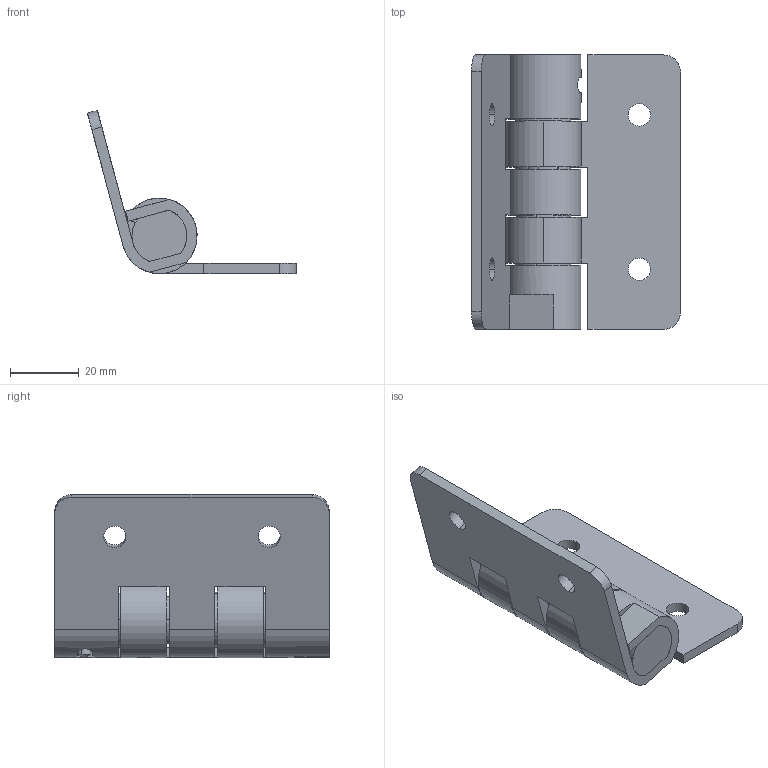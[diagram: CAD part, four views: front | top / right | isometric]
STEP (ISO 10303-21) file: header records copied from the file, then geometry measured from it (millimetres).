
FILE_DESCRIPTION(('STEP AP214'),'1');
FILE_NAME('75-1-0003.stp','2017-08-23T11:38:30',('TraceParts'),('TraceParts S.A.'),'Spatial InterOp 3D',' ',' ');
FILE_SCHEMA(('automotive_design'));
Length unit declared in the file: millimetre
Products named in the file (6): 75-1-0003_1; 75-1-0003_2; 75-1-0003_3; 75-1-0003_4; 75-1-0003_5; 75-1-0003_6
Bounding box: 60.98 x 80 x 47.57 mm (x, y, z)
Volume: 42705.8 mm3; surface area: 27745 mm2
Topology: 6 solids, 6 shells, 144 faces, 388 edges, 251 vertices
Faces by surface type: plane 70, cylinder 58, cone 12, bspline 4
Entity records: 5643 total; most frequent: CARTESIAN_POINT 1897, DIRECTION 773, ORIENTED_EDGE 768, EDGE_CURVE 384, AXIS2_PLACEMENT_3D 279, VERTEX_POINT 251, LINE 215, VECTOR 215
